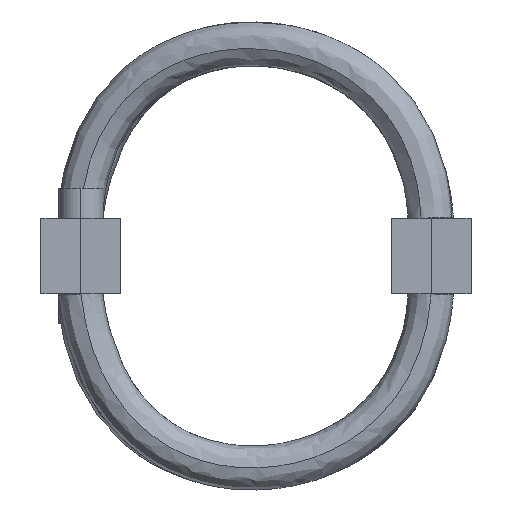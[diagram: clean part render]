
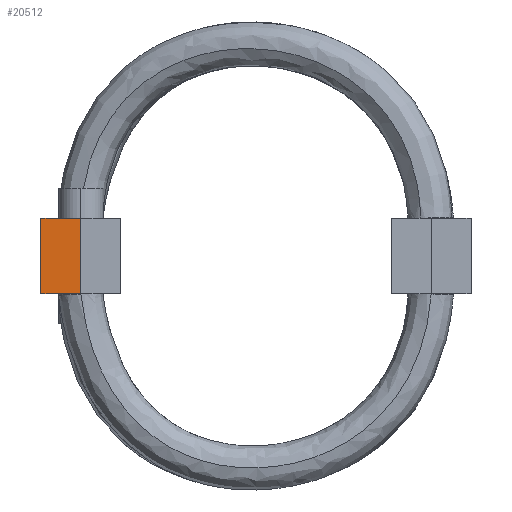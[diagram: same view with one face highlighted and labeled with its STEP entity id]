
A CAD part, left-side view. The second image highlights one B-rep face of the part: STEP entity #20512.
In plain terms, the highlighted planar face has unit normal (-1, 0, 0).
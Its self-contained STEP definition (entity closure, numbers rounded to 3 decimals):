
#683 = DIRECTION ( 'NONE',  ( 0., 0., 1. ) ) ;
#1062 = VECTOR ( 'NONE', #10235, 1000. ) ;
#2828 = DIRECTION ( 'NONE',  ( 0., 0., -1. ) ) ;
#2958 = LINE ( 'NONE', #33735, #3847 ) ;
#3803 = VECTOR ( 'NONE', #35637, 1000. ) ;
#3847 = VECTOR ( 'NONE', #16559, 1000. ) ;
#3905 = VECTOR ( 'NONE', #2828, 1000. ) ;
#5551 = AXIS2_PLACEMENT_3D ( 'NONE', #26356, #17824, #683 ) ;
#6763 = VERTEX_POINT ( 'NONE', #12108 ) ;
#9006 = CARTESIAN_POINT ( 'NONE',  ( -184.15, 88., -19.05 ) ) ;
#10235 = DIRECTION ( 'NONE',  ( 0., -1., 0. ) ) ;
#11599 = ORIENTED_EDGE ( 'NONE', *, *, #28180, .F. ) ;
#12108 = CARTESIAN_POINT ( 'NONE',  ( -184.15, 88., 19.05 ) ) ;
#12291 = LINE ( 'NONE', #33967, #3803 ) ;
#12857 = EDGE_CURVE ( 'NONE', #19628, #6763, #23889, .T. ) ;
#12951 = VERTEX_POINT ( 'NONE', #13350 ) ;
#13300 = LINE ( 'NONE', #22823, #3905 ) ;
#13350 = CARTESIAN_POINT ( 'NONE',  ( -184.15, 108., -19.05 ) ) ;
#14973 = PLANE ( 'NONE',  #5551 ) ;
#16510 = ORIENTED_EDGE ( 'NONE', *, *, #12857, .F. ) ;
#16559 = DIRECTION ( 'NONE',  ( 0., 0., 1. ) ) ;
#17187 = ORIENTED_EDGE ( 'NONE', *, *, #19496, .F. ) ;
#17824 = DIRECTION ( 'NONE',  ( -1., 0., 0. ) ) ;
#19496 = EDGE_CURVE ( 'NONE', #12951, #19628, #2958, .T. ) ;
#19628 = VERTEX_POINT ( 'NONE', #25570 ) ;
#20512 = ADVANCED_FACE ( 'NONE', ( #33336 ), #14973, .T. ) ;
#20916 = ORIENTED_EDGE ( 'NONE', *, *, #30247, .F. ) ;
#22823 = CARTESIAN_POINT ( 'NONE',  ( -184.15, 88., -19.05 ) ) ;
#23889 = LINE ( 'NONE', #30241, #1062 ) ;
#25570 = CARTESIAN_POINT ( 'NONE',  ( -184.15, 108., 19.05 ) ) ;
#26356 = CARTESIAN_POINT ( 'NONE',  ( -184.15, 98., 0. ) ) ;
#28180 = EDGE_CURVE ( 'NONE', #6763, #34478, #13300, .T. ) ;
#30241 = CARTESIAN_POINT ( 'NONE',  ( -184.15, 108., 19.05 ) ) ;
#30247 = EDGE_CURVE ( 'NONE', #34478, #12951, #12291, .T. ) ;
#33000 = EDGE_LOOP ( 'NONE', ( #16510, #17187, #20916, #11599 ) ) ;
#33336 = FACE_OUTER_BOUND ( 'NONE', #33000, .T. ) ;
#33735 = CARTESIAN_POINT ( 'NONE',  ( -184.15, 108., -19.05 ) ) ;
#33967 = CARTESIAN_POINT ( 'NONE',  ( -184.15, 108., -19.05 ) ) ;
#34478 = VERTEX_POINT ( 'NONE', #9006 ) ;
#35637 = DIRECTION ( 'NONE',  ( 0., 1., 0. ) ) ;
